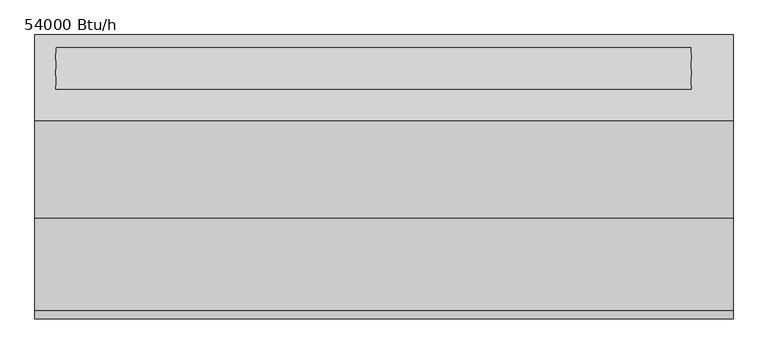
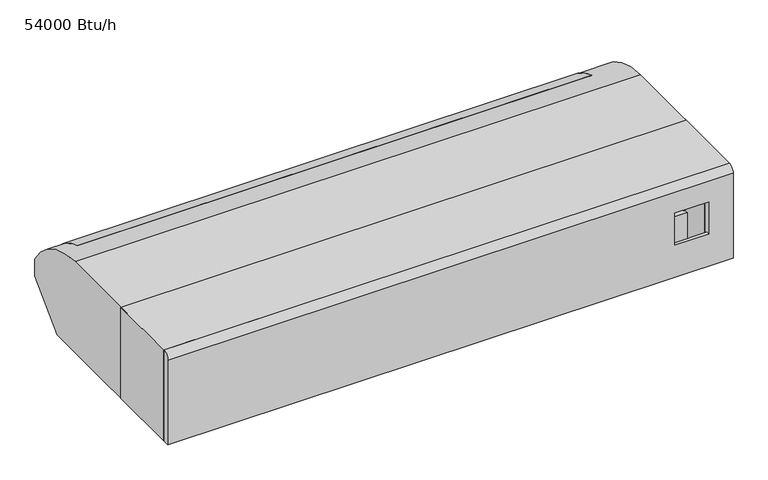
"""IFC4 building model written with IfcOpenShell, lengths in millimetres: proxy geometry, Lennox-VRF-Ceiling_Floor_Mount-VCFA-2P_Series : 54000 Btu/h."""

from ifc_helpers import new_model, si_unit, point, frame, frame_2d, origin, place, context, project, spatial, polyline, circle_curve, trimmed, segment, composite_curve, outline, extrude, faceted_brep, source, transform, mapped, element, save
from ifc_brep_helpers import plane_surface, cylinder_surface, advanced_brep


def proxy_54000_btu_h_3b2803dc(model_context):
    return source(origin(), model_context, "Body", "SolidModel", [
        faceted_brep([(835.0, 240.0, 285.0), (835.0, 20.0, 285.0), (835.0, 20.0, 0.0), (835.0, 240.0, 0.0), (-835.0, 240.0, 285.0), (-835.0, 240.0, 0.0), (-835.0, 20.0, 0.0), (-835.0, 20.0, 285.0), (663.0, 20.0, 0.0), (663.0, 20.0, 200.0), (763.0, 20.0, 200.0), (763.0, 20.0, 0.0), (763.0, 110.0, 0.0), (663.0, 110.0, 0.0), (663.0, 184.8703415, 200.0), (763.0, 184.8703415, 200.0), (763.0, 110.0, 100.0), (663.0, 110.0, 100.0), (663.0, 184.8703415, 100.0), (763.0, 184.8703415, 100.0)], [[[0, 1, 2, 3]], [[4, 5, 6, 7]], [[1, 0, 4, 7]], [[2, 1, 7, 6, 8, 9, 10, 11]], [[3, 2, 11, 12, 13, 8, 6, 5]], [[0, 3, 5, 4]], [[10, 9, 14, 15]], [[13, 12, 16, 17]], [[14, 9, 8, 13, 17, 18]], [[10, 15, 19, 16, 12, 11]], [[15, 14, 18, 19]], [[19, 18, 17, 16]]]),
        extrude(outline(composite_curve([segment(trimmed(circle_curve(frame_2d((157.0, 748.0)), 7.9375), [point((157.0, 740.0625))], [point((157.0, 755.9375))], False, "CARTESIAN"), True, "CONTINUOUS"), segment(trimmed(circle_curve(frame_2d((157.0, 748.0)), 7.9375), [point((157.0, 755.9375))], [point((157.0, 740.0625))], False, "CARTESIAN"), True, "CONTINUOUS")], self_intersect=False)), frame((0.0, 134.0, 0.0), z_axis=(0.0, 1.0, 0.0), x_axis=(0.0, 0.0, 1.0)), (0.0, 0.0, 1.0), 90.0),
        extrude(outline(composite_curve([segment(trimmed(circle_curve(frame_2d((124.0, 748.0)), 4.7625), [point((124.0, 752.7625))], [point((124.0, 743.2375))], False, "CARTESIAN"), True, "CONTINUOUS"), segment(trimmed(circle_curve(frame_2d((124.0, 748.0)), 4.7625), [point((124.0, 743.2375))], [point((124.0, 752.7625))], False, "CARTESIAN"), True, "CONTINUOUS")], self_intersect=False)), frame((0.0, 98.0, 0.0), z_axis=(0.0, 1.0, 0.0), x_axis=(0.0, 0.0, 1.0)), (0.0, 0.0, 1.0), 125.0),
        advanced_brep(
        [(835.0, 0.0, 265.0), (835.0, 0.0, 0.0), (835.0, 566.0197368, 0.0), (835.0, 680.0, 115.5), (835.0, 680.0, 169.5), (835.0, 474.8177639, 285.0), (835.0, 20.0, 285.0), (-835.0, 0.0, 265.0), (-835.0, 20.0, 285.0), (-835.0, 474.8177639, 285.0), (-835.0, 680.0, 169.5), (-835.0, 680.0, 115.5), (-835.0, 566.0197368, 0.0), (-835.0, 0.0, 0.0), (663.0, 0.0, 200.0), (763.0, 0.0, 200.0), (763.0, 0.0, 100.0), (663.0, 0.0, 100.0), (763.0, 110.0, 0.0), (663.0, 110.0, 0.0), (663.0, 10.0, 0.0), (763.0, 10.0, 0.0), (-785.0, 650.0, 209.0462867), (735.0, 650.0, 209.0462867), (735.0, 550.0, 272.9202303), (-785.0, 550.0, 272.9202303), (735.0, 650.0, 142.5), (-785.0, 650.0, 142.5), (-785.0, 550.0, 142.5), (735.0, 550.0, 142.5), (763.0, 184.8703415, 200.0), (663.0, 184.8703415, 200.0), (663.0, 184.8703415, 100.0), (763.0, 184.8703415, 100.0), (663.0, 10.0, 100.0), (663.0, 110.0, 100.0), (763.0, 10.0, 100.0), (763.0, 110.0, 100.0)],
        [
            (0, 1),
            (1, 2),
            (2, 3),
            (3, 4),
            (4, 5, circle_curve(frame((835.0, 474.8177639, 45.0), z_axis=(1.0, 0.0, 0.0), x_axis=(0.0, 1.0, 0.0)), 240.0)),
            (5, 6),
            (6, 0, circle_curve(frame((835.0, 20.0, 265.0), z_axis=(1.0, 0.0, 0.0), x_axis=(0.0, 1.0, 0.0)), 20.0)),
            (7, 8, circle_curve(frame((-835.0, 20.0, 265.0), z_axis=(-1.0, 0.0, 0.0), x_axis=(0.0, 1.0, 0.0)), 20.0)),
            (8, 9),
            (9, 10, circle_curve(frame((-835.0, 474.8177639, 45.0), z_axis=(-1.0, 0.0, 0.0), x_axis=(0.0, 1.0, 0.0)), 240.0)),
            (10, 11),
            (11, 12),
            (12, 13),
            (13, 7),
            (0, 7),
            (13, 1),
            (14, 15),
            (15, 16),
            (16, 17),
            (17, 14),
            (12, 2),
            (18, 19),
            (19, 20),
            (20, 21),
            (21, 18),
            (11, 3),
            (10, 4),
            (9, 5),
            (22, 23),
            (23, 24, circle_curve(frame((735.0, 474.8177639, 45.0), z_axis=(1.0, 0.0, 0.0), x_axis=(0.0, 1.0, 0.0)), 240.0)),
            (24, 25),
            (25, 22, circle_curve(frame((-785.0, 474.8177639, 45.0), z_axis=(-1.0, 0.0, 0.0), x_axis=(0.0, 1.0, 0.0)), 240.0)),
            (8, 6),
            (26, 27),
            (27, 28),
            (28, 29),
            (29, 26),
            (26, 23),
            (22, 27),
            (25, 28),
            (24, 29),
            (30, 31),
            (31, 32),
            (32, 33),
            (33, 30),
            (14, 31),
            (30, 15),
            (17, 34),
            (34, 20),
            (19, 35),
            (35, 32),
            (16, 36),
            (36, 34),
            (35, 37),
            (37, 33),
            (37, 18),
            (21, 36),
        ],
        [
            plane_surface(frame((835.0, 0.0, 0.0), z_axis=(1.0, 0.0, 0.0), x_axis=(0.0, 0.0, -1.0))),
            plane_surface(frame((-835.0, 0.0, 0.0), z_axis=(-1.0, 0.0, 0.0), x_axis=(0.0, 0.0, 1.0))),
            plane_surface(frame((835.0, 0.0, 265.0), z_axis=(0.0, -1.0, 0.0), x_axis=(-1.0, 0.0, 0.0))),
            plane_surface(frame((835.0, 0.0, 0.0), z_axis=(0.0, 0.0, -1.0), x_axis=(-1.0, 0.0, 0.0))),
            plane_surface(frame((835.0, 566.0197368, 0.0), z_axis=(0.0, 0.7117739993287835, -0.702408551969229), x_axis=(-1.0, 0.0, 0.0))),
            plane_surface(frame((835.0, 680.0, 115.5), z_axis=(0.0, 1.0, 0.0), x_axis=(-1.0, 0.0, 0.0))),
            cylinder_surface(frame((-835.0, 474.8177639, 45.0), z_axis=(1.0, 0.0, 0.0), x_axis=(0.0, 1.0, 0.0)), 240.0),
            plane_surface(frame((835.0, 474.8177639, 285.0), z_axis=(0.0, 0.0, 1.0), x_axis=(-1.0, 0.0, 0.0))),
            cylinder_surface(frame((-835.0, 20.0, 265.0), z_axis=(1.0, 0.0, 0.0), x_axis=(0.0, 1.0, 0.0)), 20.0),
            plane_surface(frame((-785.0, 650.0, 142.5), z_axis=(0.0, 0.0, 1.0), x_axis=(1.0, 0.0, 0.0))),
            plane_surface(frame((735.0, 650.0, 285.0), z_axis=(0.0, -1.0, 0.0), x_axis=(0.0, 0.0, -1.0))),
            plane_surface(frame((-785.0, 650.0, 285.0), z_axis=(1.0, 0.0, 0.0), x_axis=(0.0, 0.0, -1.0))),
            plane_surface(frame((-785.0, 550.0, 285.0), z_axis=(0.0, 1.0, 0.0), x_axis=(0.0, 0.0, -1.0))),
            plane_surface(frame((735.0, 550.0, 285.0), z_axis=(-1.0, 0.0, 0.0), x_axis=(0.0, 0.0, -1.0))),
            plane_surface(frame((663.0, 184.8703415, 200.0), z_axis=(0.0, -1.0, 0.0), x_axis=(1.0, 0.0, 0.0))),
            plane_surface(frame((763.0, 0.0, 200.0), z_axis=(0.0, 0.0, -1.0), x_axis=(0.0, 1.0, 0.0))),
            plane_surface(frame((663.0, 0.0, 200.0), z_axis=(1.0, 0.0, 0.0), x_axis=(0.0, 1.0, 0.0))),
            plane_surface(frame((663.0, 0.0, 100.0), z_axis=(0.0, 0.0, 1.0), x_axis=(0.0, 1.0, 0.0))),
            plane_surface(frame((763.0, 0.0, 100.0), z_axis=(-1.0, 0.0, 0.0), x_axis=(0.0, 1.0, 0.0))),
            plane_surface(frame((763.0, 110.0, 200.0), z_axis=(0.0, -1.0, 0.0), x_axis=(0.0, 0.0, -1.0))),
            plane_surface(frame((663.0, 10.0, 200.0), z_axis=(0.0, 1.0, 0.0), x_axis=(0.0, 0.0, -1.0))),
        ],
        [
            (0, [[1, 2, 3, 4, 5, 6, 7]]),
            (1, [[8, 9, 10, 11, 12, 13, 14]]),
            (2, [[-1, 15, -14, 16], [17, 18, 19, 20]]),
            (3, [[-2, -16, -13, 21], [22, 23, 24, 25]]),
            (4, [[-3, -21, -12, 26]]),
            (5, [[-4, -26, -11, 27]]),
            (6, [[-5, -27, -10, 28], [29, 30, 31, 32]]),
            (7, [[-6, -28, -9, 33]]),
            (8, [[-7, -33, -8, -15]]),
            (9, [[34, 35, 36, 37]]),
            (10, [[-34, 38, -29, 39]]),
            (11, [[-35, -39, -32, 40]]),
            (12, [[-36, -40, -31, 41]]),
            (13, [[-37, -41, -30, -38]]),
            (14, [[42, 43, 44, 45]]),
            (15, [[46, -42, 47, -17]]),
            (16, [[-43, -46, -20, 48, 49, -23, 50, 51]]),
            (17, [[-19, 52, 53, -48]]),
            (17, [[-44, -51, 54, 55]]),
            (18, [[-45, -55, 56, -25, 57, -52, -18, -47]]),
            (19, [[-50, -22, -56, -54]]),
            (20, [[-49, -53, -57, -24]]),
        ],
    ),
        extrude(outline(composite_curve([segment(trimmed(circle_curve(frame_2d((474.8177639, 45.0)), 240.0), [point((550.0, 272.9202303))], [point((650.0, 209.0462867))], False, "CARTESIAN"), True, "CONTINUOUS"), segment(polyline([(650.0, 209.0462867), (650.0, 142.5), (550.0, 142.5), (550.0, 272.9202303)]), True, "CONTINUOUS")], self_intersect=False)), frame((-785.0, 0.0, 0.0), z_axis=(1.0, 0.0, 0.0), x_axis=(0.0, 1.0, 0.0)), (0.0, 0.0, 1.0), 1520.0),
    ])


if __name__ == "__main__":
    model = new_model("IFC4")
    model_context = context("Model", 3, world=origin())
    ifc_project = project(units=[si_unit("LENGTHUNIT", "METRE", prefix="MILLI")], contexts=[model_context])
    site = spatial("IfcSite", under=ifc_project)
    building = spatial("IfcBuilding", under=site)
    placement = place(None, origin())
    proxy_54000_btu_h_shape = proxy_54000_btu_h_3b2803dc(model_context)
    element("IfcBuildingElementProxy", 1, Name="Lennox-VRF-Ceiling_Floor_Mount-VCFA-2P_Series : 54000 Btu/h", ObjectType="Lennox-VRF-Ceiling_Floor_Mount-VCFA-2P_Series : 54000 Btu/h", at=placement, inside=building, context=model_context, shape_type="MappedRepresentation", body=[
        mapped(proxy_54000_btu_h_shape, transform((0.0, 0.0, 0.0), x_axis=(1.0, 0.0, 0.0), y_axis=(0.0, 1.0, 0.0), z_axis=(0.0, 0.0, 1.0))),
    ])
    save(model, "model.ifc")
